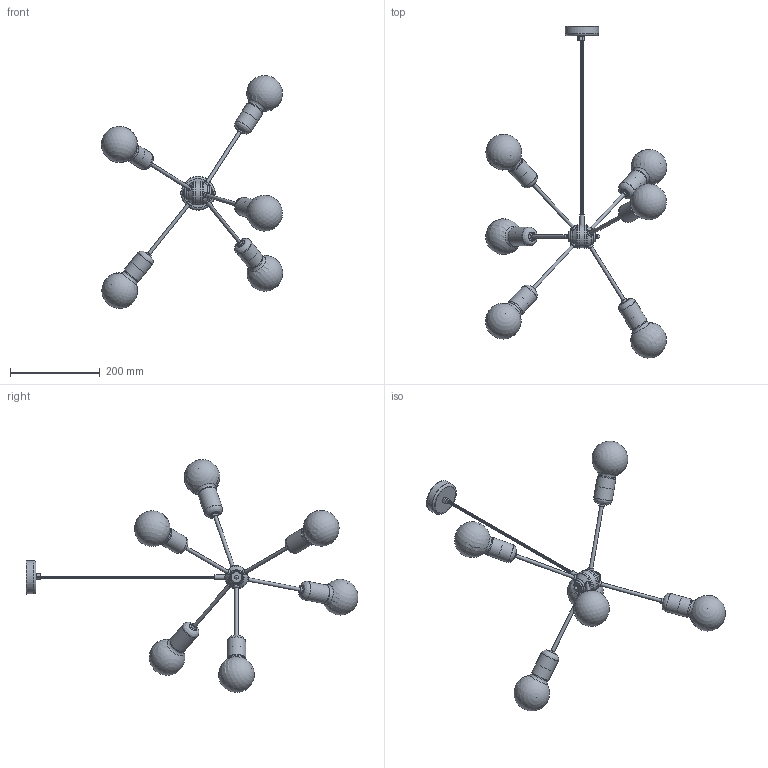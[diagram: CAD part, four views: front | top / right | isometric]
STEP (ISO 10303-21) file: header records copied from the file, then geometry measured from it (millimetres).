
FILE_DESCRIPTION(/* description */ (''),/* implementation_level */ '2;1');
FILE_NAME(/* name */ 'C:\Users\Dominika\Desktop\Modele CZARNY\RHYTHM\LAMPA RHYTHM.stp',/* time_stamp */ '2019-12-05T20:41:33+01:00',/* author */ ('Dominika'),/* organization */ (''),/* preprocessor_version */ 'ST-DEVELOPER v17',/* originating_system */ 'Autodesk Inventor 2019',/* authorisation */ '');
FILE_SCHEMA (('AUTOMOTIVE_DESIGN { 1 0 10303 214 3 1 1 }'));
Length unit declared in the file: millimetre
Products named in the file (17): LAMPA RHYTHM; THYHM mocowanie kloszy; FUNK kulka; RHYTHM klosz_MIR; RHYTHM rurka_MIR; RHYTHM tulejka; BLUES kabel II; BLUES kabel I; RHYTHM pierscien maly_MIR; RHYTHM rurka; b56 pierscien maly; T56 klosz; klosz II; 1. zespol mocowania do sciany; FUNK mocowanie do sciany; FUNK mocowanie kabla; sruba
Assembly tree (438 placements, depth 3):
  LAMPA RHYTHM
    THYHM mocowanie kloszy
    FUNK kulka  x2
    RHYTHM klosz_MIR  x3
    RHYTHM rurka_MIR  x3
    RHYTHM pierscien maly_MIR  x6
    RHYTHM tulejka
    BLUES kabel II  x200
    BLUES kabel I  x200
    b56 pierscien maly  x6
    RHYTHM rurka  x3
    T56 klosz  x3
    klosz II  x6
    1. zespol mocowania do sciany
      FUNK mocowanie do sciany
      FUNK mocowanie kabla
      sruba
Bounding box: 404.74 x 741.34 x 519.81 mm (x, y, z)
Volume: 2004249.2 mm3; surface area: 324539.2 mm2
Topology: 437 solids, 437 shells, 1386 faces, 1638 edges, 1110 vertices
Faces by surface type: plane 869, cylinder 460, torus 23, bspline 18, sphere 10, cone 6
Full cylindrical faces by diameter (mm): 2.5 x1, 4 x2, 5 x401, 6 x3, 8 x18, 10 x1, 37.982 x6, 40 x6, 42 x6, 50 x3, 52 x2, 73 x1, 75 x1
Entity records: 7223 total; most frequent: DIRECTION 1468, CARTESIAN_POINT 1204, AXIS2_PLACEMENT_3D 699, PRODUCT_DEFINITION_SHAPE 455, ORIENTED_EDGE 444, ITEM_DEFINED_TRANSFORMATION 438, CONTEXT_DEPENDENT_SHAPE_REPRESENTATION 438, NEXT_ASSEMBLY_USAGE_OCCURRENCE 438
